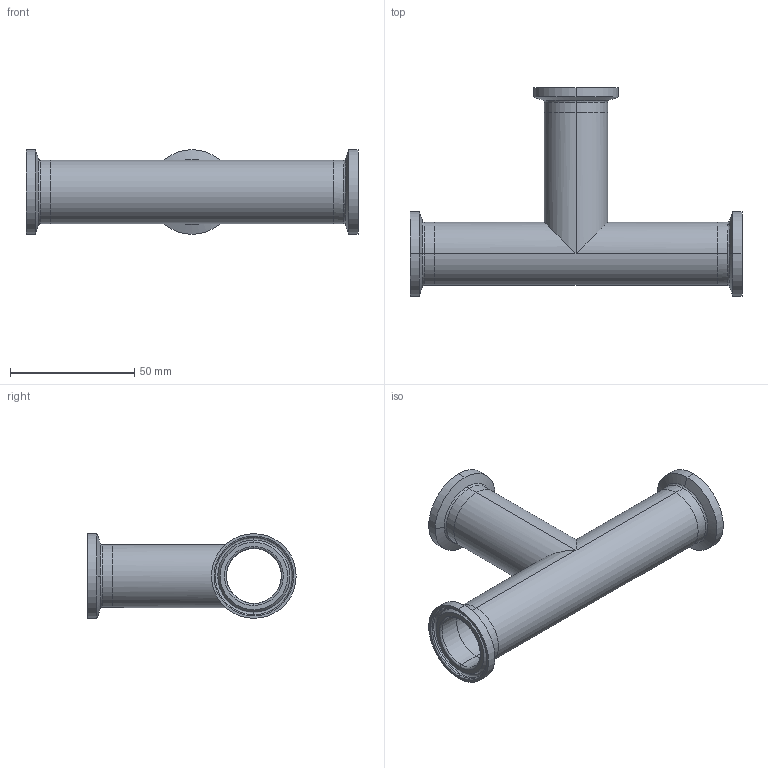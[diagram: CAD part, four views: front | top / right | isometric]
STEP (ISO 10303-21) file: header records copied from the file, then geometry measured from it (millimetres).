
FILE_DESCRIPTION (( 'STEP AP214' ), '1' );
FILE_NAME ('TEG76L1.0-.._Type A.STEP', '2016-05-23T06:45:14', ( 'eran' ), ( '' ), 'SwSTEP 2.0', 'SolidWorks 2016', '' );
FILE_SCHEMA (( 'AUTOMOTIVE_DESIGN' ));
Length unit declared in the file: millimetre
Products named in the file (1): TEG76L1.0-.._Type A
Bounding box: 133.4 x 83.71 x 34.01 mm (x, y, z)
Volume: 26610.9 mm3; surface area: 31495.1 mm2
Topology: 4 solids, 4 shells, 82 faces, 182 edges, 110 vertices
Faces by surface type: cylinder 34, bspline 24, plane 12, cone 12
Entity records: 2637 total; most frequent: CARTESIAN_POINT 783, DIRECTION 402, ORIENTED_EDGE 364, EDGE_CURVE 182, AXIS2_PLACEMENT_3D 177, CIRCLE 118, VERTEX_POINT 110, EDGE_LOOP 94
